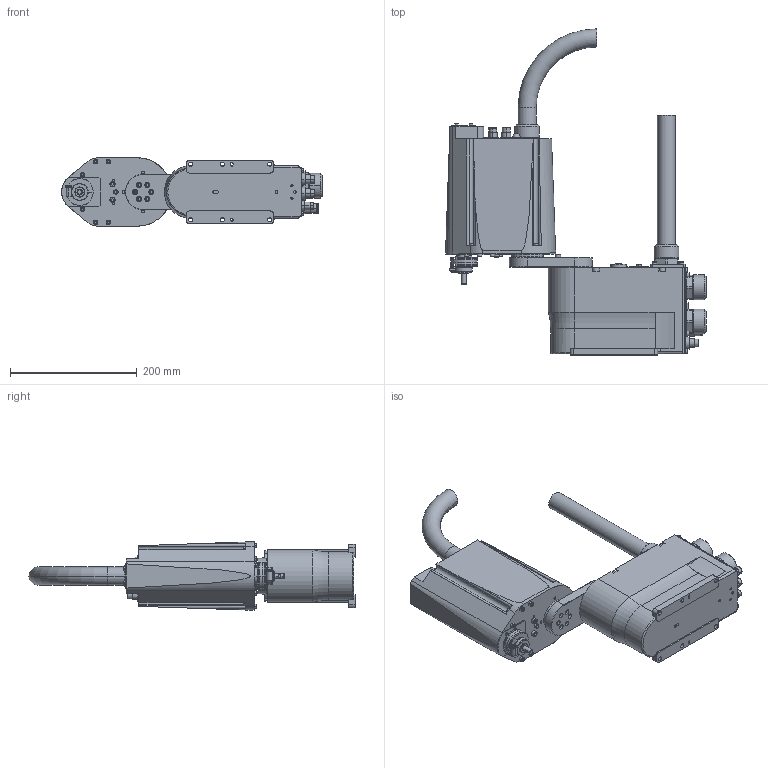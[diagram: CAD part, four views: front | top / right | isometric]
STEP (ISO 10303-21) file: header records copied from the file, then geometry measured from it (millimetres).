
FILE_DESCRIPTION( ( '' ), '1' );
FILE_NAME( '//expscmdclustefs.cadenas.external/client_exchange/iodir/jobs/output/wkb51504005_no0/STEP/G1_171C_2_03.stp', '2012-11-22T13:02:31', ( '' ), ( '' ), ' ', ' ', ' ' );
FILE_SCHEMA( ( 'CONFIG_CONTROL_DESIGN' ) );
Length unit declared in the file: millimetre
Products named in the file (6): 1; 2; 3; 4; 5; 6
Bounding box: 411.7 x 515 x 108 mm (x, y, z)
Volume: 5142216.1 mm3; surface area: 414620.1 mm2
Topology: 6 solids, 12 shells, 1605 faces, 3750 edges, 2429 vertices
Faces by surface type: plane 862, cylinder 530, cone 192, torus 16, sphere 5
Entity records: 46518 total; most frequent: DIRECTION 8278, CARTESIAN_POINT 8216, ORIENTED_EDGE 7496, EDGE_CURVE 3748, AXIS2_PLACEMENT_3D 2947, VERTEX_POINT 2429, LINE 2384, VECTOR 2384
